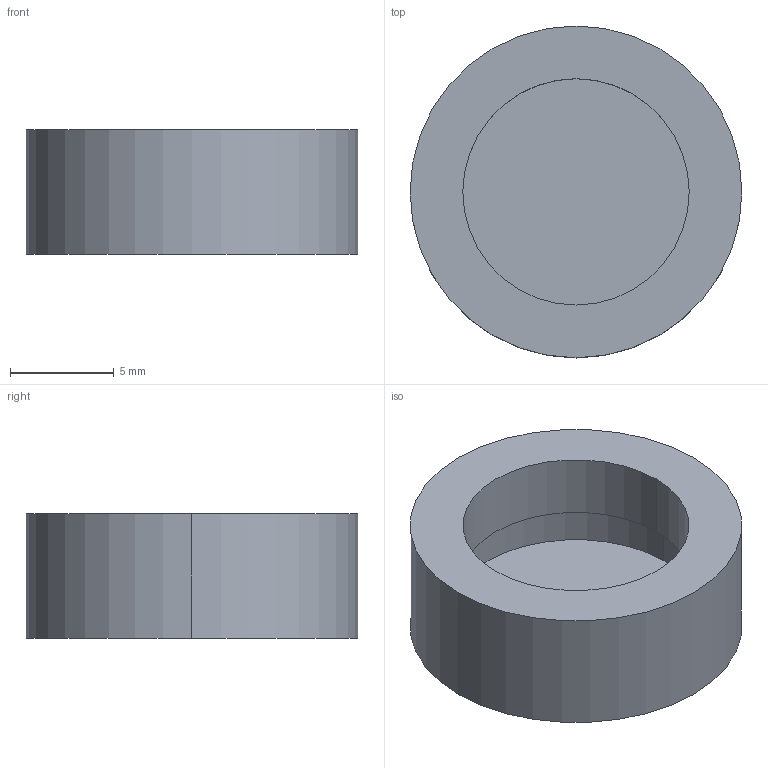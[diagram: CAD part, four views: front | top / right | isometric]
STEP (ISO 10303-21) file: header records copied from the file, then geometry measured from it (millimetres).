
FILE_DESCRIPTION (( 'STEP AP203' ), '1' );
FILE_NAME ('CAP12-PTFE-6mm.step', '2011-11-17T20:10:03', ( 'Turck User' ), ( '' ), 'SwSTEP 2.0', 'SolidWorks 2011', '' );
FILE_SCHEMA (( 'CONFIG_CONTROL_DESIGN' ));
Length unit declared in the file: millimetre
Products named in the file (1): CAP12-PTFE-6mm
Bounding box: 16 x 16 x 6 mm (x, y, z)
Volume: 690 mm3; surface area: 924.4 mm2
Topology: 1 solids, 1 shells, 10 faces, 18 edges, 12 vertices
Faces by surface type: cylinder 6, plane 4
Entity records: 331 total; most frequent: DIRECTION 52, CARTESIAN_POINT 41, ORIENTED_EDGE 36, AXIS2_PLACEMENT_3D 23, EDGE_CURVE 18, EDGE_LOOP 12, VERTEX_POINT 12, CIRCLE 12
